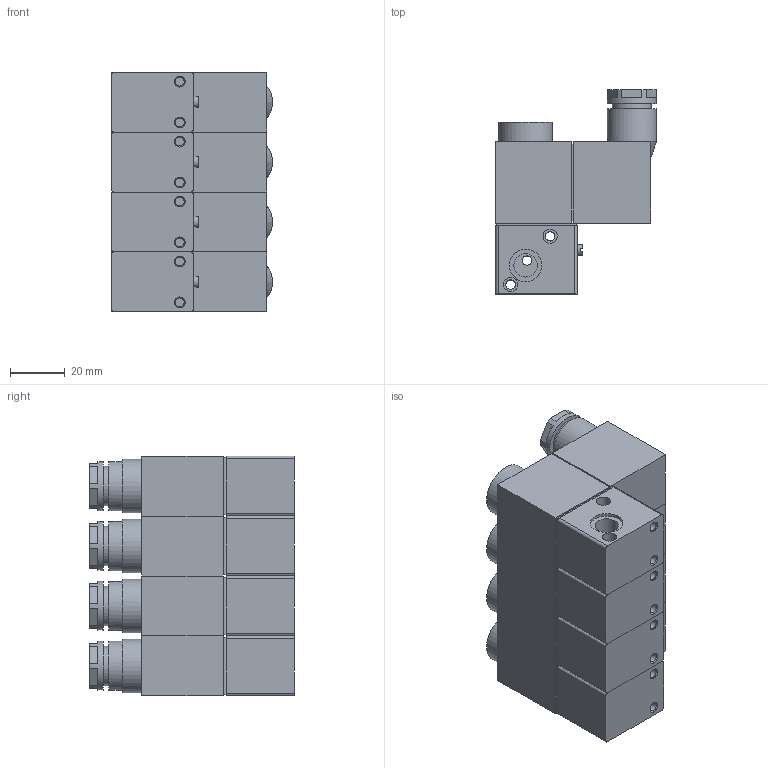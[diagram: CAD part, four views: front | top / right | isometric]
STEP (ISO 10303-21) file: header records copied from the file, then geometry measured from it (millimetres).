
FILE_DESCRIPTION(/* description */ ('STEP AP214'),/* implementation_level */ '2;1');
FILE_NAME(/* name */ '86-MS-3V-04-xxx.stp',/* time_stamp */ '2026-01-15T09:27:11+01:00',/* author */ ('Tschernatsch'),/* organization */ ('CADENAS'),/* preprocessor_version */ 'ST-DEVELOPER v20',/* originating_system */ 'Autodesk Inventor 2024',/* authorisation */ ' ');
FILE_SCHEMA (('AUTOMOTIVE_DESIGN { 1 0 10303 214 3 1 1 }'));
Length unit declared in the file: millimetre
Products named in the file (3): 3v1-06-LD-DC24V-4F; 3v1-06-LD-DC24V-4F3; 3v1-06-LD-DC24V-4F2
Assembly tree (8 placements, depth 2):
  3v1-06-LD-DC24V-4F
    3v1-06-LD-DC24V-4F3  x4
    3v1-06-LD-DC24V-4F2  x4
Bounding box: 59 x 75 x 88 mm (x, y, z)
Volume: 232792.2 mm3; surface area: 59443 mm2
Topology: 8 solids, 8 shells, 360 faces, 780 edges, 516 vertices
Faces by surface type: plane 244, cylinder 100, cone 16
Full cylindrical faces by diameter (mm): 3.242 x8, 3.5 x12, 4 x4, 4.3 x4, 5.2 x16, 8.566 x12, 11 x4, 12 x8, 14.4 x4, 18 x8, 19.6 x4
Entity records: 2649 total; most frequent: DIRECTION 469, CARTESIAN_POINT 427, ORIENTED_EDGE 390, EDGE_CURVE 195, AXIS2_PLACEMENT_3D 174, VERTEX_POINT 129, LINE 121, VECTOR 121
